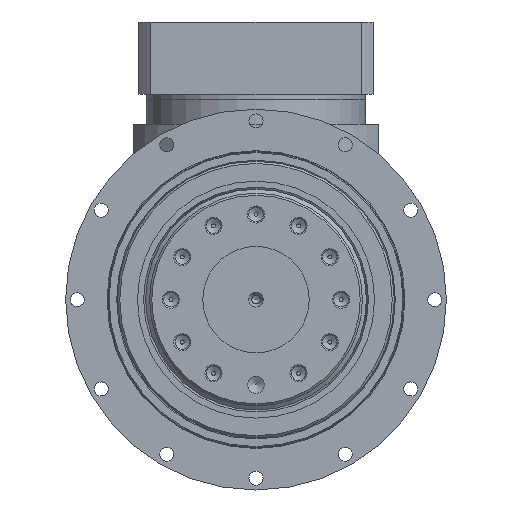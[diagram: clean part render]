
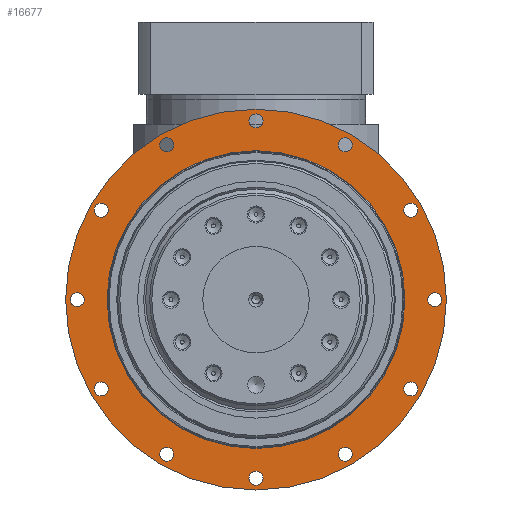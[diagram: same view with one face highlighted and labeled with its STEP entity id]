
A CAD part, left-side view. The second image highlights one B-rep face of the part: STEP entity #16677.
In plain terms, the highlighted planar face has unit normal (-1, 0, 0).
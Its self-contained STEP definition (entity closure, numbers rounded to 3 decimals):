
#100 = DIRECTION ( 'NONE',  ( 0., 0., 1. ) ) ;
#166 = CIRCLE ( 'NONE', #18518, 3.3 ) ;
#432 = EDGE_CURVE ( 'NONE', #13895, #13895, #15916, .T. ) ;
#576 = FACE_OUTER_BOUND ( 'NONE', #6605, .T. ) ;
#597 = CARTESIAN_POINT ( 'NONE',  ( -48.5, 0., 0. ) ) ;
#722 = CIRCLE ( 'NONE', #13300, 3.3 ) ;
#762 = EDGE_LOOP ( 'NONE', ( #13216 ) ) ;
#813 = ORIENTED_EDGE ( 'NONE', *, *, #9619, .F. ) ;
#921 = EDGE_LOOP ( 'NONE', ( #6788 ) ) ;
#1056 = CIRCLE ( 'NONE', #18146, 3.3 ) ;
#1300 = CARTESIAN_POINT ( 'NONE',  ( -48.5, 0., -84. ) ) ;
#1399 = ORIENTED_EDGE ( 'NONE', *, *, #6931, .F. ) ;
#1494 = EDGE_CURVE ( 'NONE', #2314, #2314, #18380, .T. ) ;
#1704 = ORIENTED_EDGE ( 'NONE', *, *, #1494, .F. ) ;
#1811 = VERTEX_POINT ( 'NONE', #11912 ) ;
#1830 = DIRECTION ( 'NONE',  ( 0., 0., 1. ) ) ;
#1916 = EDGE_LOOP ( 'NONE', ( #6613 ) ) ;
#1958 = FACE_BOUND ( 'NONE', #10108, .T. ) ;
#2017 = AXIS2_PLACEMENT_3D ( 'NONE', #3501, #4954, #13789 ) ;
#2205 = CARTESIAN_POINT ( 'NONE',  ( -48.5, 84., 0. ) ) ;
#2231 = CARTESIAN_POINT ( 'NONE',  ( -48.5, -72.746, 42. ) ) ;
#2314 = VERTEX_POINT ( 'NONE', #11103 ) ;
#2352 = CARTESIAN_POINT ( 'NONE',  ( -48.5, 72.746, 45.3 ) ) ;
#2361 = AXIS2_PLACEMENT_3D ( 'NONE', #1300, #7137, #11530 ) ;
#2596 = AXIS2_PLACEMENT_3D ( 'NONE', #14089, #5363, #15555 ) ;
#2715 = EDGE_CURVE ( 'NONE', #13672, #13672, #18795, .T. ) ;
#3322 = CIRCLE ( 'NONE', #4522, 3.3 ) ;
#3485 = EDGE_LOOP ( 'NONE', ( #14762 ) ) ;
#3501 = CARTESIAN_POINT ( 'NONE',  ( -48.5, -42., 72.746 ) ) ;
#3521 = FACE_BOUND ( 'NONE', #11368, .T. ) ;
#3783 = EDGE_CURVE ( 'NONE', #8675, #8675, #7440, .T. ) ;
#3808 = CARTESIAN_POINT ( 'NONE',  ( -48.5, 42., 72.746 ) ) ;
#3995 = DIRECTION ( 'NONE',  ( -1., 0., 0. ) ) ;
#4079 = EDGE_LOOP ( 'NONE', ( #17503 ) ) ;
#4522 = AXIS2_PLACEMENT_3D ( 'NONE', #2231, #12376, #9413 ) ;
#4538 = CARTESIAN_POINT ( 'NONE',  ( -48.5, 84., 3.3 ) ) ;
#4577 = DIRECTION ( 'NONE',  ( -1., 0., 0. ) ) ;
#4601 = CARTESIAN_POINT ( 'NONE',  ( -48.5, 42., 76.046 ) ) ;
#4660 = CARTESIAN_POINT ( 'NONE',  ( -48.5, -84., 3.3 ) ) ;
#4752 = ORIENTED_EDGE ( 'NONE', *, *, #2715, .F. ) ;
#4954 = DIRECTION ( 'NONE',  ( -1., 0., 0. ) ) ;
#5295 = DIRECTION ( 'NONE',  ( 0., 0., 1. ) ) ;
#5363 = DIRECTION ( 'NONE',  ( -1., 0., 0. ) ) ;
#5614 = CARTESIAN_POINT ( 'NONE',  ( -48.5, -72.746, 45.3 ) ) ;
#5660 = EDGE_LOOP ( 'NONE', ( #17676 ) ) ;
#5697 = AXIS2_PLACEMENT_3D ( 'NONE', #17453, #7692, #11568 ) ;
#5802 = DIRECTION ( 'NONE',  ( 0., 0., -1. ) ) ;
#6280 = EDGE_LOOP ( 'NONE', ( #813 ) ) ;
#6294 = DIRECTION ( 'NONE',  ( -1., 0., 0. ) ) ;
#6317 = VERTEX_POINT ( 'NONE', #10463 ) ;
#6377 = EDGE_CURVE ( 'NONE', #14601, #14601, #13308, .T. ) ;
#6605 = EDGE_LOOP ( 'NONE', ( #9494 ) ) ;
#6613 = ORIENTED_EDGE ( 'NONE', *, *, #17876, .F. ) ;
#6744 = EDGE_CURVE ( 'NONE', #8700, #8700, #1056, .T. ) ;
#6788 = ORIENTED_EDGE ( 'NONE', *, *, #10771, .F. ) ;
#6901 = CARTESIAN_POINT ( 'NONE',  ( -48.5, -42., -69.446 ) ) ;
#6929 = FACE_BOUND ( 'NONE', #3485, .T. ) ;
#6931 = EDGE_CURVE ( 'NONE', #7321, #7321, #3322, .T. ) ;
#7052 = CIRCLE ( 'NONE', #2596, 3.3 ) ;
#7137 = DIRECTION ( 'NONE',  ( -1., 0., 0. ) ) ;
#7221 = CARTESIAN_POINT ( 'NONE',  ( -48.5, 0., -80.7 ) ) ;
#7321 = VERTEX_POINT ( 'NONE', #5614 ) ;
#7374 = CARTESIAN_POINT ( 'NONE',  ( -48.5, -72.746, -42. ) ) ;
#7417 = DIRECTION ( 'NONE',  ( -1., 0., 0. ) ) ;
#7440 = CIRCLE ( 'NONE', #13628, 70. ) ;
#7458 = AXIS2_PLACEMENT_3D ( 'NONE', #7374, #16021, #7496 ) ;
#7496 = DIRECTION ( 'NONE',  ( 0., 0., 1. ) ) ;
#7692 = DIRECTION ( 'NONE',  ( -1., 0., 0. ) ) ;
#7945 = VERTEX_POINT ( 'NONE', #4660 ) ;
#8144 = ORIENTED_EDGE ( 'NONE', *, *, #6744, .F. ) ;
#8250 = ORIENTED_EDGE ( 'NONE', *, *, #14050, .F. ) ;
#8675 = VERTEX_POINT ( 'NONE', #11292 ) ;
#8700 = VERTEX_POINT ( 'NONE', #17426 ) ;
#8708 = CARTESIAN_POINT ( 'NONE',  ( -48.5, -42., -72.746 ) ) ;
#8774 = FACE_BOUND ( 'NONE', #14359, .T. ) ;
#9054 = DIRECTION ( 'NONE',  ( -1., 0., 0. ) ) ;
#9100 = DIRECTION ( 'NONE',  ( -1., 0., 0. ) ) ;
#9413 = DIRECTION ( 'NONE',  ( 0., 0., 1. ) ) ;
#9494 = ORIENTED_EDGE ( 'NONE', *, *, #6377, .T. ) ;
#9619 = EDGE_CURVE ( 'NONE', #17309, #17309, #11446, .T. ) ;
#9694 = DIRECTION ( 'NONE',  ( -1., 0., 0. ) ) ;
#9762 = ORIENTED_EDGE ( 'NONE', *, *, #12229, .F. ) ;
#9862 = AXIS2_PLACEMENT_3D ( 'NONE', #8708, #7417, #10342 ) ;
#10108 = EDGE_LOOP ( 'NONE', ( #9762 ) ) ;
#10148 = CIRCLE ( 'NONE', #18046, 3.3 ) ;
#10312 = CARTESIAN_POINT ( 'NONE',  ( -48.5, 42., -72.746 ) ) ;
#10342 = DIRECTION ( 'NONE',  ( 0., 0., 1. ) ) ;
#10386 = CARTESIAN_POINT ( 'NONE',  ( -48.5, 89.5, 0. ) ) ;
#10463 = CARTESIAN_POINT ( 'NONE',  ( -48.5, 72.746, -38.7 ) ) ;
#10629 = CARTESIAN_POINT ( 'NONE',  ( -48.5, -84., 0. ) ) ;
#10771 = EDGE_CURVE ( 'NONE', #16401, #16401, #17273, .T. ) ;
#10827 = DIRECTION ( 'NONE',  ( 0., 0., 1. ) ) ;
#11103 = CARTESIAN_POINT ( 'NONE',  ( -48.5, 0., 87.3 ) ) ;
#11292 = CARTESIAN_POINT ( 'NONE',  ( -48.5, 0., 70. ) ) ;
#11368 = EDGE_LOOP ( 'NONE', ( #1399 ) ) ;
#11420 = EDGE_LOOP ( 'NONE', ( #4752 ) ) ;
#11446 = CIRCLE ( 'NONE', #2017, 3.3 ) ;
#11530 = DIRECTION ( 'NONE',  ( 0., 0., 1. ) ) ;
#11542 = CARTESIAN_POINT ( 'NONE',  ( -48.5, -42., 76.046 ) ) ;
#11568 = DIRECTION ( 'NONE',  ( 0., 0., 1. ) ) ;
#11834 = DIRECTION ( 'NONE',  ( 0., 0., 1. ) ) ;
#11912 = CARTESIAN_POINT ( 'NONE',  ( -48.5, -72.746, -38.7 ) ) ;
#12164 = FACE_BOUND ( 'NONE', #4079, .T. ) ;
#12229 = EDGE_CURVE ( 'NONE', #1811, #1811, #13862, .T. ) ;
#12376 = DIRECTION ( 'NONE',  ( -1., 0., 0. ) ) ;
#12478 = DIRECTION ( 'NONE',  ( 0., 0., 1. ) ) ;
#12514 = DIRECTION ( 'NONE',  ( 0., 0., 1. ) ) ;
#12545 = DIRECTION ( 'NONE',  ( -1., 0., 0. ) ) ;
#12609 = FACE_BOUND ( 'NONE', #921, .T. ) ;
#12673 = CARTESIAN_POINT ( 'NONE',  ( -48.5, 0., 89.5 ) ) ;
#12686 = EDGE_LOOP ( 'NONE', ( #8144 ) ) ;
#12990 = DIRECTION ( 'NONE',  ( 1., 0., 0. ) ) ;
#13055 = PLANE ( 'NONE',  #17216 ) ;
#13058 = EDGE_CURVE ( 'NONE', #7945, #7945, #166, .T. ) ;
#13216 = ORIENTED_EDGE ( 'NONE', *, *, #17477, .F. ) ;
#13300 = AXIS2_PLACEMENT_3D ( 'NONE', #3808, #3995, #12514 ) ;
#13308 = CIRCLE ( 'NONE', #17644, 89.5 ) ;
#13529 = FACE_BOUND ( 'NONE', #762, .T. ) ;
#13628 = AXIS2_PLACEMENT_3D ( 'NONE', #14012, #9694, #5295 ) ;
#13672 = VERTEX_POINT ( 'NONE', #6901 ) ;
#13789 = DIRECTION ( 'NONE',  ( 0., 0., 1. ) ) ;
#13862 = CIRCLE ( 'NONE', #7458, 3.3 ) ;
#13895 = VERTEX_POINT ( 'NONE', #2352 ) ;
#14012 = CARTESIAN_POINT ( 'NONE',  ( -48.5, 0., 0. ) ) ;
#14050 = EDGE_CURVE ( 'NONE', #16331, #16331, #10148, .T. ) ;
#14089 = CARTESIAN_POINT ( 'NONE',  ( -48.5, 72.746, -42. ) ) ;
#14359 = EDGE_LOOP ( 'NONE', ( #8250 ) ) ;
#14601 = VERTEX_POINT ( 'NONE', #12673 ) ;
#14675 = FACE_BOUND ( 'NONE', #17948, .T. ) ;
#14762 = ORIENTED_EDGE ( 'NONE', *, *, #13058, .F. ) ;
#15038 = CARTESIAN_POINT ( 'NONE',  ( -48.5, 72.746, 42. ) ) ;
#15132 = FACE_BOUND ( 'NONE', #12686, .T. ) ;
#15439 = VERTEX_POINT ( 'NONE', #4601 ) ;
#15555 = DIRECTION ( 'NONE',  ( 0., 0., 1. ) ) ;
#15916 = CIRCLE ( 'NONE', #17238, 3.3 ) ;
#16021 = DIRECTION ( 'NONE',  ( -1., 0., 0. ) ) ;
#16331 = VERTEX_POINT ( 'NONE', #4538 ) ;
#16401 = VERTEX_POINT ( 'NONE', #7221 ) ;
#16677 = ADVANCED_FACE ( 'NONE', ( #17386, #15132, #12609, #18054, #1958, #6929, #3521, #18505, #14675, #13529, #12164, #8774, #16924, #576 ), #13055, .F. ) ;
#16924 = FACE_BOUND ( 'NONE', #5660, .T. ) ;
#17216 = AXIS2_PLACEMENT_3D ( 'NONE', #10386, #12990, #5802 ) ;
#17238 = AXIS2_PLACEMENT_3D ( 'NONE', #15038, #9054, #1830 ) ;
#17273 = CIRCLE ( 'NONE', #2361, 3.3 ) ;
#17309 = VERTEX_POINT ( 'NONE', #11542 ) ;
#17386 = FACE_BOUND ( 'NONE', #1916, .T. ) ;
#17426 = CARTESIAN_POINT ( 'NONE',  ( -48.5, 42., -69.446 ) ) ;
#17453 = CARTESIAN_POINT ( 'NONE',  ( -48.5, 0., 84. ) ) ;
#17477 = EDGE_CURVE ( 'NONE', #15439, #15439, #722, .T. ) ;
#17503 = ORIENTED_EDGE ( 'NONE', *, *, #432, .F. ) ;
#17644 = AXIS2_PLACEMENT_3D ( 'NONE', #597, #6294, #10827 ) ;
#17676 = ORIENTED_EDGE ( 'NONE', *, *, #3783, .F. ) ;
#17876 = EDGE_CURVE ( 'NONE', #6317, #6317, #7052, .T. ) ;
#17948 = EDGE_LOOP ( 'NONE', ( #1704 ) ) ;
#18046 = AXIS2_PLACEMENT_3D ( 'NONE', #2205, #12545, #12478 ) ;
#18054 = FACE_BOUND ( 'NONE', #11420, .T. ) ;
#18146 = AXIS2_PLACEMENT_3D ( 'NONE', #10312, #4577, #100 ) ;
#18380 = CIRCLE ( 'NONE', #5697, 3.3 ) ;
#18505 = FACE_BOUND ( 'NONE', #6280, .T. ) ;
#18518 = AXIS2_PLACEMENT_3D ( 'NONE', #10629, #9100, #11834 ) ;
#18795 = CIRCLE ( 'NONE', #9862, 3.3 ) ;
